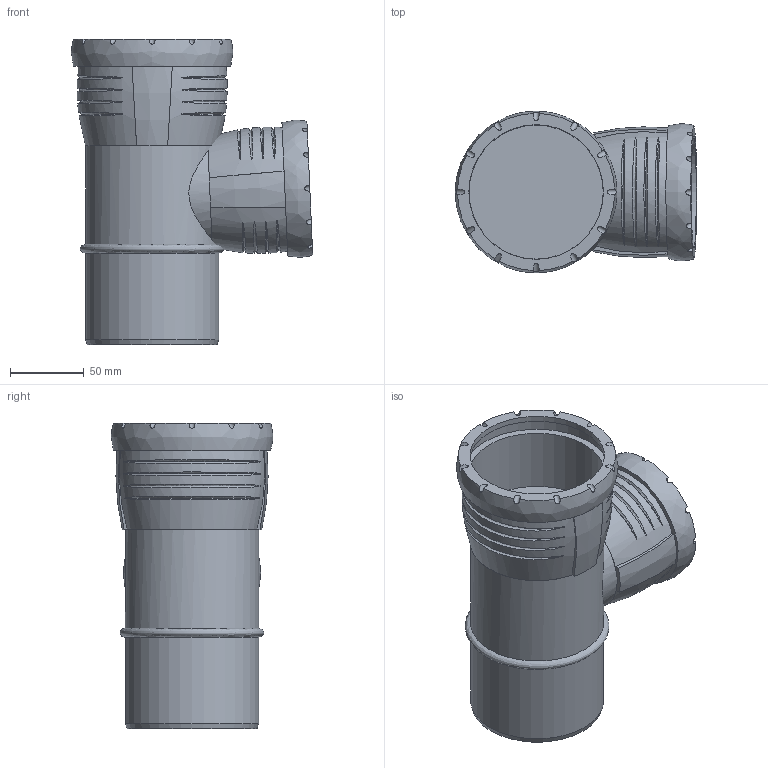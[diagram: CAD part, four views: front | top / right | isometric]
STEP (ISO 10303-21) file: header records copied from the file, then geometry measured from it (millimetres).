
FILE_DESCRIPTION(/* description */ (''),/* implementation_level */ '2;1');
FILE_NAME(/* name */ 'H:\Geberit-Teile\Export\Abzweig PP\stp\393449.stp',/* time_stamp */ '2017-02-13T13:18:03+01:00',/* author */ ('seihe2'),/* organization */ (''),/* preprocessor_version */ 'ST-DEVELOPER v15.2',/* originating_system */ 'Autodesk Inventor 2014',/* authorisation */ '');
FILE_SCHEMA (('AUTOMOTIVE_DESIGN { 1 0 10303 214 3 1 1 }'));
Length unit declared in the file: millimetre
Products named in the file (1): 393449
Bounding box: 163.51 x 109.47 x 206.9 mm (x, y, z)
Volume: 957817.6 mm3; surface area: 186159.8 mm2
Topology: 5 solids, 5 shells, 108 faces, 250 edges, 176 vertices
Faces by surface type: bspline 47, cylinder 41, plane 19, cone 1
Full cylindrical faces by diameter (mm): 58.903 x1, 74.497 x1, 75.9 x1, 76.2 x1, 81.6 x1, 85 x1, 90.2 x3, 90.9 x1, 91.2 x1, 100.2 x1
Entity records: 7760 total; most frequent: CARTESIAN_POINT 5527, ORIENTED_EDGE 470, DIRECTION 333, EDGE_CURVE 234, VERTEX_POINT 173, AXIS2_PLACEMENT_3D 166, EDGE_LOOP 149, B_SPLINE_CURVE_WITH_KNOTS 127
